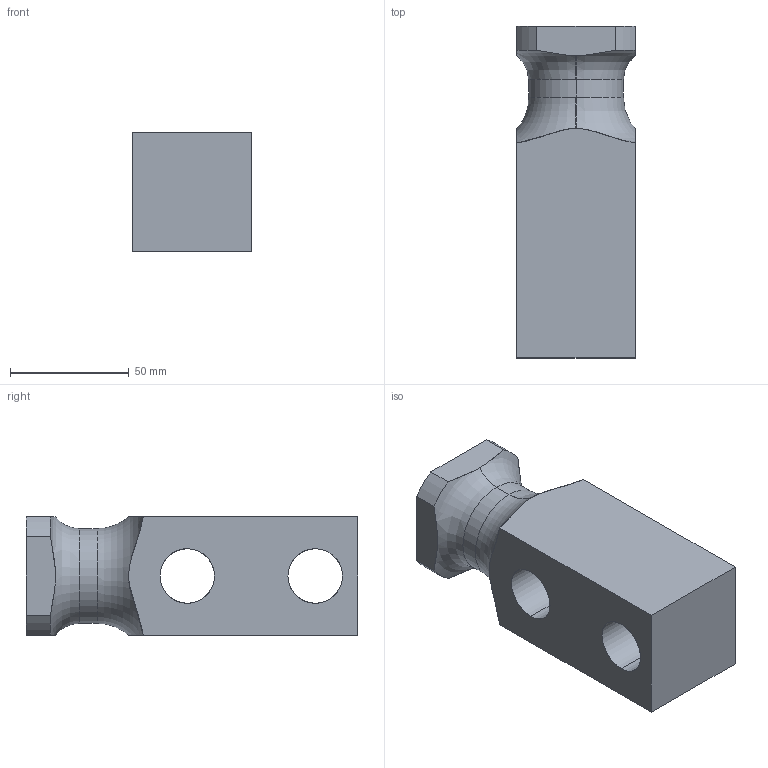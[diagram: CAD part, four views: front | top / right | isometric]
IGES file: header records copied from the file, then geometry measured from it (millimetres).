
Start section: START RECORD GO HERE.
Global section: file name: 395V-04-050-140.igs; native system: DASSAULT SYSTEMES CATIA V5 R20 - www.3ds.com; preprocessor: CATIA Version 5 Release 20 ; author: Utente; organization: NB04-ASUS; date: 20200410.132016; units: millimetre
Bounding box: 50 x 140 x 50 mm (x, y, z)
Surface area: 38246.4 mm2 (no closed solid volume)
Topology: 0 solids, 0 shells, 30 faces, 152 edges, 152 vertices
Faces by surface type: revolution 18, extrusion 12
